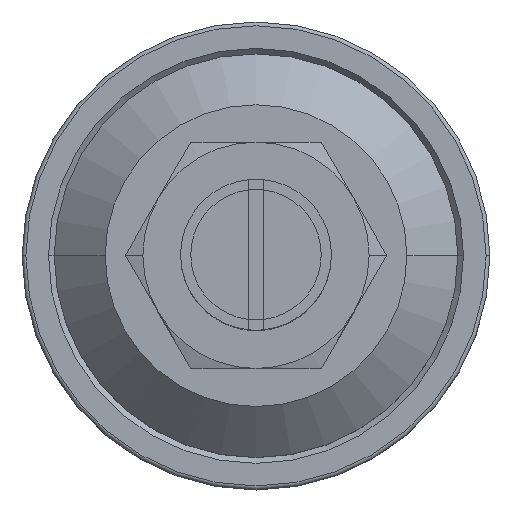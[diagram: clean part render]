
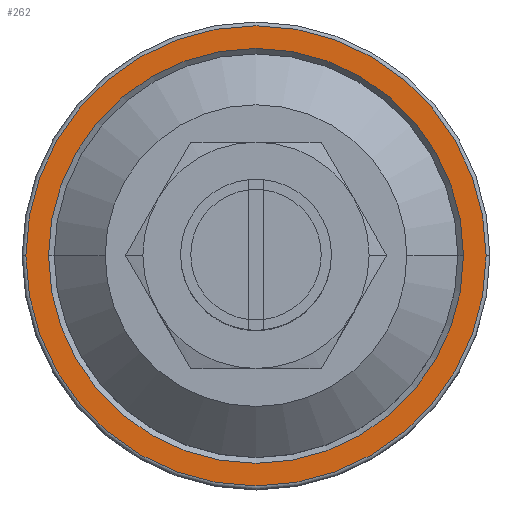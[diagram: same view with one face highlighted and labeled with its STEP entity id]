
A CAD part, top view. The second image highlights one B-rep face of the part: STEP entity #262.
In plain terms, the highlighted planar face has unit normal (0, 0, 1).
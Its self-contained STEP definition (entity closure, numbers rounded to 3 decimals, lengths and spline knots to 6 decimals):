
#262=ADVANCED_FACE('208:16',(#471,#472),#473,.T.);
#471=FACE_OUTER_BOUND('',#686,.T.);
#472=FACE_BOUND('',#687,.T.);
#473=PLANE('',#688);
#686=EDGE_LOOP('',(#1389,#1390));
#687=EDGE_LOOP('',(#1391,#1392));
#688=AXIS2_PLACEMENT_3D('',#1393,#1394,#1395);
#1389=ORIENTED_EDGE('',*,*,#1633,.F.);
#1390=ORIENTED_EDGE('',*,*,#1645,.F.);
#1391=ORIENTED_EDGE('',*,*,#1642,.F.);
#1392=ORIENTED_EDGE('',*,*,#1643,.F.);
#1393=CARTESIAN_POINT('',(0.0,0.0,0.022));
#1394=DIRECTION('',(0.0,0.0,1.0));
#1395=DIRECTION('',(1.0,0.0,0.0));
#1633=EDGE_CURVE('208:37',#1978,#1980,#1981,.T.);
#1642=EDGE_CURVE('236:2445',#1994,#1991,#1996,.T.);
#1643=EDGE_CURVE('236:2445',#1991,#1994,#1997,.T.);
#1645=EDGE_CURVE('208:37',#1980,#1978,#1999,.T.);
#1978=VERTEX_POINT('',#2822);
#1980=VERTEX_POINT('',#2824);
#1981=CIRCLE('',#2825,0.0305);
#1991=VERTEX_POINT('',#2837);
#1994=VERTEX_POINT('',#2841);
#1996=CIRCLE('',#2844,0.0275);
#1997=CIRCLE('',#2845,0.0275);
#1999=CIRCLE('',#2847,0.0305);
#2822=CARTESIAN_POINT('',(-0.0305,0.,0.022));
#2824=CARTESIAN_POINT('',(0.0305,0.,0.022));
#2825=AXIS2_PLACEMENT_3D('',#3189,#3190,#3191);
#2837=CARTESIAN_POINT('',(-0.0275,0.,0.022));
#2841=CARTESIAN_POINT('',(0.0275,0.,0.022));
#2844=AXIS2_PLACEMENT_3D('',#3208,#3209,#3210);
#2845=AXIS2_PLACEMENT_3D('',#3211,#3212,#3213);
#2847=AXIS2_PLACEMENT_3D('',#3217,#3218,#3219);
#3189=CARTESIAN_POINT('',(0.0,0.0,0.022));
#3190=DIRECTION('',(0.0,0.0,-1.0));
#3191=DIRECTION('',(1.0,0.0,0.0));
#3208=CARTESIAN_POINT('',(0.0,0.0,0.022));
#3209=DIRECTION('',(0.0,0.0,1.0));
#3210=DIRECTION('',(-1.0,0.0,0.0));
#3211=CARTESIAN_POINT('',(0.0,0.0,0.022));
#3212=DIRECTION('',(0.0,0.0,1.0));
#3213=DIRECTION('',(-1.0,0.0,0.0));
#3217=CARTESIAN_POINT('',(0.0,0.0,0.022));
#3218=DIRECTION('',(0.0,0.0,-1.0));
#3219=DIRECTION('',(1.0,0.0,0.0));
